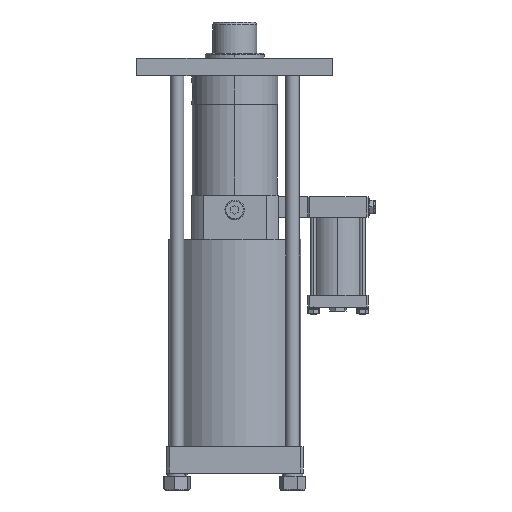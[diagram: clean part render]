
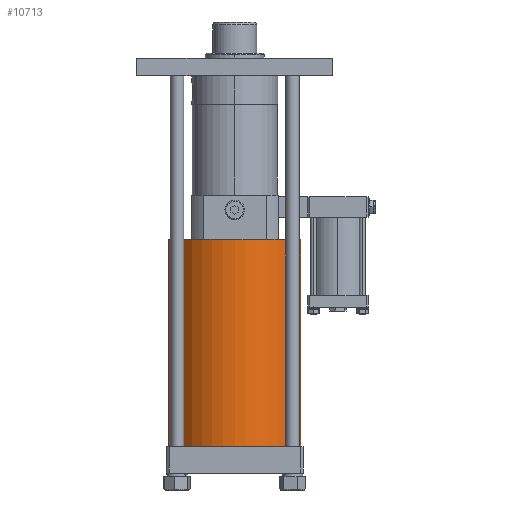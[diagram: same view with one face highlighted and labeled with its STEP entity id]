
A CAD part, front view. The second image highlights one B-rep face of the part: STEP entity #10713.
In plain terms, the highlighted cylindrical face has radius 67.5 mm (diameter 135 mm), a partial arc.
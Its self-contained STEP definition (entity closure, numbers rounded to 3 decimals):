
#612 = VERTEX_POINT ( 'NONE', #7718 ) ;
#745 = DIRECTION ( 'NONE',  ( 1., 0., 0. ) ) ;
#933 = VECTOR ( 'NONE', #3784, 1000. ) ;
#1114 = ORIENTED_EDGE ( 'NONE', *, *, #5120, .F. ) ;
#1532 = CARTESIAN_POINT ( 'NONE',  ( 67.5, 0., -402. ) ) ;
#1856 = ORIENTED_EDGE ( 'NONE', *, *, #7847, .F. ) ;
#2286 = AXIS2_PLACEMENT_3D ( 'NONE', #5132, #10482, #2445 ) ;
#2403 = CARTESIAN_POINT ( 'NONE',  ( 67.5, 0., -402. ) ) ;
#2445 = DIRECTION ( 'NONE',  ( 1., 0., 0. ) ) ;
#2679 = ORIENTED_EDGE ( 'NONE', *, *, #10166, .T. ) ;
#2724 = ORIENTED_EDGE ( 'NONE', *, *, #4614, .T. ) ;
#3198 = DIRECTION ( 'NONE',  ( 0., 0., -1. ) ) ;
#3580 = LINE ( 'NONE', #9162, #933 ) ;
#3784 = DIRECTION ( 'NONE',  ( 0., 0., 1. ) ) ;
#3817 = EDGE_LOOP ( 'NONE', ( #1856, #1114, #2679, #2724 ) ) ;
#4614 = EDGE_CURVE ( 'NONE', #612, #8999, #9713, .T. ) ;
#5120 = EDGE_CURVE ( 'NONE', #11250, #7818, #5227, .T. ) ;
#5132 = CARTESIAN_POINT ( 'NONE',  ( 0., 0., -402. ) ) ;
#5227 = CIRCLE ( 'NONE', #5324, 67.5 ) ;
#5324 = AXIS2_PLACEMENT_3D ( 'NONE', #11407, #6121, #745 ) ;
#6121 = DIRECTION ( 'NONE',  ( 0., 0., -1. ) ) ;
#7633 = VECTOR ( 'NONE', #8694, 1000. ) ;
#7718 = CARTESIAN_POINT ( 'NONE',  ( 67.5, 0., -190. ) ) ;
#7818 = VERTEX_POINT ( 'NONE', #9960 ) ;
#7847 = EDGE_CURVE ( 'NONE', #7818, #8999, #3580, .T. ) ;
#8571 = CARTESIAN_POINT ( 'NONE',  ( 0., 0., -190. ) ) ;
#8694 = DIRECTION ( 'NONE',  ( 0., 0., 1. ) ) ;
#8999 = VERTEX_POINT ( 'NONE', #10376 ) ;
#9162 = CARTESIAN_POINT ( 'NONE',  ( -67.5, 0., -402. ) ) ;
#9333 = AXIS2_PLACEMENT_3D ( 'NONE', #8571, #3198, #9472 ) ;
#9472 = DIRECTION ( 'NONE',  ( 1., 0., 0. ) ) ;
#9713 = CIRCLE ( 'NONE', #9333, 67.5 ) ;
#9721 = LINE ( 'NONE', #2403, #7633 ) ;
#9960 = CARTESIAN_POINT ( 'NONE',  ( -67.5, 0., -402. ) ) ;
#9968 = CYLINDRICAL_SURFACE ( 'NONE', #2286, 67.5 ) ;
#10166 = EDGE_CURVE ( 'NONE', #11250, #612, #9721, .T. ) ;
#10244 = FACE_OUTER_BOUND ( 'NONE', #3817, .T. ) ;
#10376 = CARTESIAN_POINT ( 'NONE',  ( -67.5, 0., -190. ) ) ;
#10482 = DIRECTION ( 'NONE',  ( 0., 0., 1. ) ) ;
#10713 = ADVANCED_FACE ( 'NONE', ( #10244 ), #9968, .T. ) ;
#11250 = VERTEX_POINT ( 'NONE', #1532 ) ;
#11407 = CARTESIAN_POINT ( 'NONE',  ( 0., 0., -402. ) ) ;
